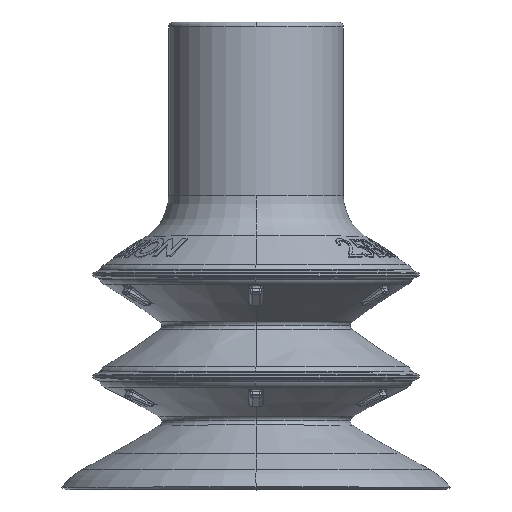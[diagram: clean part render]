
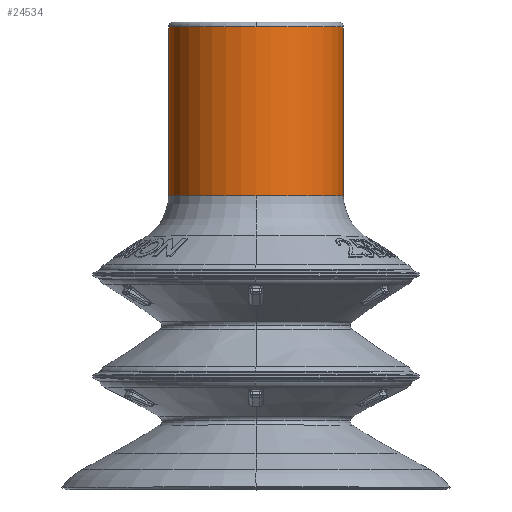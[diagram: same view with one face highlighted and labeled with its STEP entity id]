
A CAD part, top view. The second image highlights one B-rep face of the part: STEP entity #24534.
In plain terms, the highlighted cylindrical face has radius 9 mm (diameter 18 mm), a full revolution.
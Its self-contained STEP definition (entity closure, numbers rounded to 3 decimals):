
#144 = CARTESIAN_POINT ( 'NONE',  ( 0., -9.379, 0. ) ) ;
#1166 = EDGE_CURVE ( 'NONE', #49998, #51803, #8459, .T. ) ;
#2225 = AXIS2_PLACEMENT_3D ( 'NONE', #9137, #29535, #46278 ) ;
#2382 = FACE_OUTER_BOUND ( 'NONE', #48917, .T. ) ;
#2686 = ORIENTED_EDGE ( 'NONE', *, *, #1166, .T. ) ;
#5550 = EDGE_CURVE ( 'NONE', #42714, #25300, #26414, .T. ) ;
#8459 = CIRCLE ( 'NONE', #2225, 9. ) ;
#9137 = CARTESIAN_POINT ( 'NONE',  ( 0., 8., 0. ) ) ;
#12030 = CARTESIAN_POINT ( 'NONE',  ( 0., 8., 9. ) ) ;
#13025 = AXIS2_PLACEMENT_3D ( 'NONE', #40075, #53222, #45095 ) ;
#14912 = CIRCLE ( 'NONE', #33630, 9. ) ;
#17198 = DIRECTION ( 'NONE',  ( 0., 0., 1. ) ) ;
#23662 = DIRECTION ( 'NONE',  ( 0., 0., 1. ) ) ;
#24352 = DIRECTION ( 'NONE',  ( 0., -1., 0. ) ) ;
#24534 = ADVANCED_FACE ( 'NONE', ( #53499, #2382 ), #35631, .T. ) ;
#25300 = VERTEX_POINT ( 'NONE', #28980 ) ;
#25612 = CARTESIAN_POINT ( 'NONE',  ( 0., -9.379, 9. ) ) ;
#26414 = CIRCLE ( 'NONE', #27330, 9. ) ;
#27330 = AXIS2_PLACEMENT_3D ( 'NONE', #32316, #27570, #23662 ) ;
#27570 = DIRECTION ( 'NONE',  ( 0., 1., 0. ) ) ;
#28746 = CARTESIAN_POINT ( 'NONE',  ( 0., 8., -9. ) ) ;
#28980 = CARTESIAN_POINT ( 'NONE',  ( 0., -9.379, -9. ) ) ;
#29370 = ORIENTED_EDGE ( 'NONE', *, *, #38143, .T. ) ;
#29535 = DIRECTION ( 'NONE',  ( 0., -1., 0. ) ) ;
#30320 = ORIENTED_EDGE ( 'NONE', *, *, #5550, .T. ) ;
#32316 = CARTESIAN_POINT ( 'NONE',  ( 0., -9.379, 0. ) ) ;
#32472 = EDGE_LOOP ( 'NONE', ( #30320, #29370 ) ) ;
#33630 = AXIS2_PLACEMENT_3D ( 'NONE', #144, #43148, #17198 ) ;
#35631 = CYLINDRICAL_SURFACE ( 'NONE', #13025, 9. ) ;
#37642 = EDGE_CURVE ( 'NONE', #51803, #49998, #55061, .T. ) ;
#38143 = EDGE_CURVE ( 'NONE', #25300, #42714, #14912, .T. ) ;
#40075 = CARTESIAN_POINT ( 'NONE',  ( 0., 74.331, 0. ) ) ;
#42714 = VERTEX_POINT ( 'NONE', #25612 ) ;
#43148 = DIRECTION ( 'NONE',  ( 0., 1., 0. ) ) ;
#45095 = DIRECTION ( 'NONE',  ( 0., 0., 1. ) ) ;
#46108 = AXIS2_PLACEMENT_3D ( 'NONE', #53122, #24352, #49213 ) ;
#46278 = DIRECTION ( 'NONE',  ( 0., 0., 1. ) ) ;
#48917 = EDGE_LOOP ( 'NONE', ( #2686, #51095 ) ) ;
#49213 = DIRECTION ( 'NONE',  ( 0., 0., 1. ) ) ;
#49998 = VERTEX_POINT ( 'NONE', #28746 ) ;
#51095 = ORIENTED_EDGE ( 'NONE', *, *, #37642, .T. ) ;
#51803 = VERTEX_POINT ( 'NONE', #12030 ) ;
#53122 = CARTESIAN_POINT ( 'NONE',  ( 0., 8., 0. ) ) ;
#53222 = DIRECTION ( 'NONE',  ( 0., -1., 0. ) ) ;
#53499 = FACE_OUTER_BOUND ( 'NONE', #32472, .T. ) ;
#55061 = CIRCLE ( 'NONE', #46108, 9. ) ;
